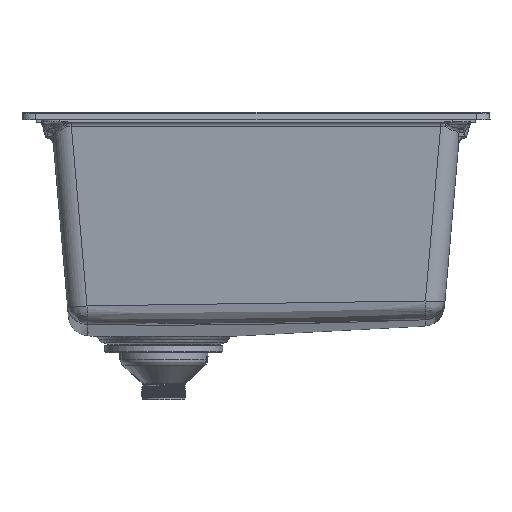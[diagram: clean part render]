
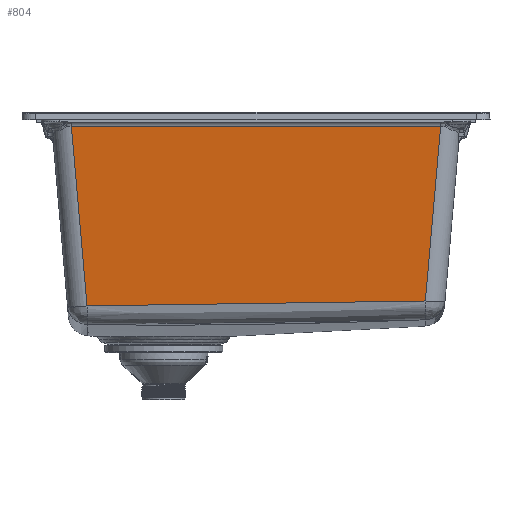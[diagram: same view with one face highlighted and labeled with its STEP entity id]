
A CAD part, left-side view. The second image highlights one B-rep face of the part: STEP entity #804.
In plain terms, the highlighted planar face has unit normal (-0.996, 0, -0.087) as drawn and (0, 0.996, -0.087) by its records, which use the part's own axes.
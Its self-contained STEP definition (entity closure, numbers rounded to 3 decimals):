
#804=ADVANCED_FACE('',(#1773),#17057,.T.);
#1773=FACE_OUTER_BOUND('',#2776,.T.);
#2776=EDGE_LOOP('',(#7144,#7145,#7146,#7147,#7148));
#7144=ORIENTED_EDGE('',*,*,#10630,.T.);
#7145=ORIENTED_EDGE('',*,*,#10309,.T.);
#7146=ORIENTED_EDGE('',*,*,#10603,.F.);
#7147=ORIENTED_EDGE('',*,*,#10568,.F.);
#7148=ORIENTED_EDGE('',*,*,#10602,.F.);
#10309=EDGE_CURVE('',#16096,#16097,#12720,.T.);
#10568=EDGE_CURVE('',#16232,#16233,#11436,.T.);
#10602=EDGE_CURVE('',#16224,#16232,#12815,.T.);
#10603=EDGE_CURVE('',#16233,#16097,#12816,.T.);
#10630=EDGE_CURVE('',#16224,#16096,#12836,.T.);
#11436=(
BOUNDED_CURVE()
B_SPLINE_CURVE(3,(#43561,#43562,#43563,#43564),.UNSPECIFIED.,.F.,.F.)
B_SPLINE_CURVE_WITH_KNOTS((4,4),(-1.,0.),.UNSPECIFIED.)
CURVE()
GEOMETRIC_REPRESENTATION_ITEM()
RATIONAL_B_SPLINE_CURVE((1.,1.,1.,1.))
REPRESENTATION_ITEM('')
);
#12720=B_SPLINE_CURVE_WITH_KNOTS('',1,(#42595,#42596),.UNSPECIFIED.,.F.,
 .F.,(2,2),(0.334,15.865),.UNSPECIFIED.);
#12815=B_SPLINE_CURVE_WITH_KNOTS('',3,(#43715,#43716,#43717,#43718,#43719,
#43720,#43721),.UNSPECIFIED.,.F.,.F.,(4,3,4),(-1.,-0.499,
0.),.UNSPECIFIED.);
#12816=B_SPLINE_CURVE_WITH_KNOTS('',3,(#43722,#43723,#43724,#43725,#43726,
#43727,#43728),.UNSPECIFIED.,.F.,.F.,(4,3,4),(-8.235,-8.235,
-0.644),.UNSPECIFIED.);
#12836=B_SPLINE_CURVE_WITH_KNOTS('',1,(#43884,#43885),.UNSPECIFIED.,.F.,
 .F.,(2,2),(-8.056,-0.672),.UNSPECIFIED.);
#16096=VERTEX_POINT('',#41736);
#16097=VERTEX_POINT('',#41737);
#16224=VERTEX_POINT('',#41864);
#16232=VERTEX_POINT('',#41872);
#16233=VERTEX_POINT('',#41873);
#17057=PLANE('',#18858);
#18858=AXIS2_PLACEMENT_3D('',#40161,#20870,$);
#20870=DIRECTION('',(0.,0.996,-0.087));
#40161=CARTESIAN_POINT('',(-197.259,349.35,-169.718));
#41736=CARTESIAN_POINT('',(-197.249,366.169,22.523));
#41737=CARTESIAN_POINT('',(197.249,366.169,22.523));
#41864=CARTESIAN_POINT('',(-180.962,349.882,-163.631));
#41872=CARTESIAN_POINT('',(180.504,349.424,-168.868));
#41873=CARTESIAN_POINT('',(180.507,349.428,-168.831));
#42595=CARTESIAN_POINT('',(-197.249,366.169,22.523));
#42596=CARTESIAN_POINT('',(197.249,366.169,22.523));
#43561=CARTESIAN_POINT('',(180.504,349.424,-168.868));
#43562=CARTESIAN_POINT('',(180.505,349.425,-168.856));
#43563=CARTESIAN_POINT('',(180.506,349.426,-168.844));
#43564=CARTESIAN_POINT('',(180.507,349.428,-168.831));
#43715=CARTESIAN_POINT('',(-180.962,349.882,-163.631));
#43716=CARTESIAN_POINT('',(-120.567,349.692,-165.805));
#43717=CARTESIAN_POINT('',(-60.153,349.533,-167.624));
#43718=CARTESIAN_POINT('',(0.272,349.446,-168.621));
#43719=CARTESIAN_POINT('',(60.342,349.359,-169.612));
#43720=CARTESIAN_POINT('',(120.433,349.351,-169.708));
#43721=CARTESIAN_POINT('',(180.504,349.424,-168.868));
#43722=CARTESIAN_POINT('',(180.507,349.428,-168.831));
#43723=CARTESIAN_POINT('',(180.507,349.428,-168.831));
#43724=CARTESIAN_POINT('',(180.507,349.428,-168.831));
#43725=CARTESIAN_POINT('',(180.507,349.428,-168.831));
#43726=CARTESIAN_POINT('',(186.088,355.008,-105.047));
#43727=CARTESIAN_POINT('',(191.668,360.588,-41.262));
#43728=CARTESIAN_POINT('',(197.249,366.169,22.523));
#43884=CARTESIAN_POINT('',(-180.962,349.882,-163.631));
#43885=CARTESIAN_POINT('',(-197.249,366.169,22.523));
